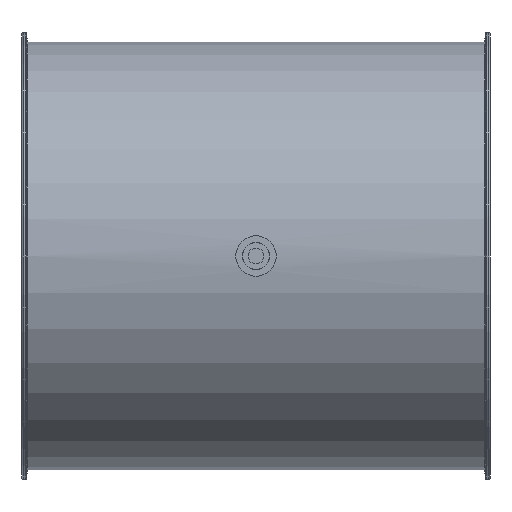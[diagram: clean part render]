
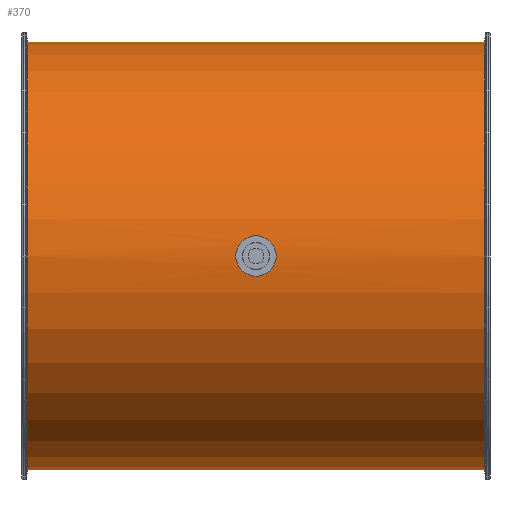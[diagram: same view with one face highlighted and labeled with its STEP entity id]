
A CAD part, front view. The second image highlights one B-rep face of the part: STEP entity #370.
In plain terms, the highlighted cylindrical face has radius 201 mm (diameter 402 mm), a full revolution.
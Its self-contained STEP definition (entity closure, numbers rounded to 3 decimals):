
#199=B_SPLINE_CURVE_WITH_KNOTS('',3,(#1694,#1695,#1696,#1697,#1698,#1699,
#1700,#1701,#1702,#1703,#1704,#1705,#1706,#1707,#1708,#1709,#1710,#1711),
 .UNSPECIFIED.,.T.,.F.,(2,2,2,2,2,2,2,2,2,2,2),(-0.125,0.,0.125,
0.25,0.375,0.5,0.625,
0.75,0.875,1.,1.125),.UNSPECIFIED.);
#200=B_SPLINE_CURVE_WITH_KNOTS('',3,(#1713,#1714,#1715,#1716,#1717,#1718,
#1719,#1720,#1721,#1722,#1723,#1724,#1725,#1726,#1727,#1728,#1729,#1730),
 .UNSPECIFIED.,.T.,.F.,(2,2,2,2,2,2,2,2,2,2,2),(-0.125,0.,0.125,
0.25,0.375,0.5,0.625,0.75,0.875,
1.,1.125),.UNSPECIFIED.);
#222=CYLINDRICAL_SURFACE('',#1193,201.);
#263=FACE_BOUND('',#519,.T.);
#264=FACE_BOUND('',#520,.T.);
#265=FACE_BOUND('',#521,.T.);
#266=FACE_BOUND('',#522,.T.);
#370=ADVANCED_FACE('',(#263,#264,#265,#266),#222,.T.);
#519=EDGE_LOOP('',(#659));
#520=EDGE_LOOP('',(#660));
#521=EDGE_LOOP('',(#661));
#522=EDGE_LOOP('',(#662));
#659=ORIENTED_EDGE('',*,*,#991,.T.);
#660=ORIENTED_EDGE('',*,*,#992,.F.);
#661=ORIENTED_EDGE('',*,*,#993,.F.);
#662=ORIENTED_EDGE('',*,*,#994,.T.);
#897=VERTEX_POINT('',#1693);
#898=VERTEX_POINT('',#1712);
#899=VERTEX_POINT('',#1731);
#900=VERTEX_POINT('',#1733);
#991=EDGE_CURVE('',#897,#897,#1113,.T.);
#992=EDGE_CURVE('',#898,#898,#199,.T.);
#993=EDGE_CURVE('',#899,#899,#200,.T.);
#994=EDGE_CURVE('',#900,#900,#1114,.T.);
#1113=CIRCLE('',#1191,201.);
#1114=CIRCLE('',#1192,201.);
#1191=AXIS2_PLACEMENT_3D('',#1692,#1354,#1355);
#1192=AXIS2_PLACEMENT_3D('',#1732,#1356,#1357);
#1193=AXIS2_PLACEMENT_3D('',#1734,#1358,#1359);
#1354=DIRECTION('',(-1.,0.,0.));
#1355=DIRECTION('',(0.,0.,-1.));
#1356=DIRECTION('',(1.,0.,0.));
#1357=DIRECTION('',(0.,0.,1.));
#1358=DIRECTION('',(1.,0.,0.));
#1359=DIRECTION('',(0.,0.,-1.));
#1692=CARTESIAN_POINT('',(214.83,-109.,125.));
#1693=CARTESIAN_POINT('',(214.83,-109.,-76.));
#1694=CARTESIAN_POINT('',(3.436,91.579,112.));
#1695=CARTESIAN_POINT('',(-3.436,91.579,112.));
#1696=CARTESIAN_POINT('',(-6.796,91.68,113.41));
#1697=CARTESIAN_POINT('',(-11.591,91.9,118.207));
#1698=CARTESIAN_POINT('',(-12.998,92.,121.601));
#1699=CARTESIAN_POINT('',(-13.002,92.,128.385));
#1700=CARTESIAN_POINT('',(-11.623,91.901,131.76));
#1701=CARTESIAN_POINT('',(-6.771,91.679,136.616));
#1702=CARTESIAN_POINT('',(-3.399,91.579,137.999));
#1703=CARTESIAN_POINT('',(3.389,91.579,138.001));
#1704=CARTESIAN_POINT('',(6.784,91.68,136.596));
#1705=CARTESIAN_POINT('',(11.583,91.899,131.807));
#1706=CARTESIAN_POINT('',(12.997,92.,128.444));
#1707=CARTESIAN_POINT('',(13.003,92.,121.581));
#1708=CARTESIAN_POINT('',(11.597,91.9,118.216));
#1709=CARTESIAN_POINT('',(6.802,91.68,113.414));
#1710=CARTESIAN_POINT('',(3.436,91.579,112.));
#1711=CARTESIAN_POINT('',(-3.436,91.579,112.));
#1712=CARTESIAN_POINT('',(0.,91.579,112.));
#1713=CARTESIAN_POINT('',(-3.436,-309.579,112.));
#1714=CARTESIAN_POINT('',(3.436,-309.579,112.));
#1715=CARTESIAN_POINT('',(6.796,-309.68,113.41));
#1716=CARTESIAN_POINT('',(11.591,-309.9,118.207));
#1717=CARTESIAN_POINT('',(12.998,-310.,121.601));
#1718=CARTESIAN_POINT('',(13.002,-310.,128.385));
#1719=CARTESIAN_POINT('',(11.623,-309.901,131.76));
#1720=CARTESIAN_POINT('',(6.771,-309.679,136.616));
#1721=CARTESIAN_POINT('',(3.399,-309.579,137.999));
#1722=CARTESIAN_POINT('',(-3.389,-309.579,138.001));
#1723=CARTESIAN_POINT('',(-6.784,-309.68,136.596));
#1724=CARTESIAN_POINT('',(-11.583,-309.899,131.807));
#1725=CARTESIAN_POINT('',(-12.997,-310.,128.444));
#1726=CARTESIAN_POINT('',(-13.003,-310.,121.581));
#1727=CARTESIAN_POINT('',(-11.597,-309.9,118.216));
#1728=CARTESIAN_POINT('',(-6.802,-309.68,113.414));
#1729=CARTESIAN_POINT('',(-3.436,-309.579,112.));
#1730=CARTESIAN_POINT('',(3.436,-309.579,112.));
#1731=CARTESIAN_POINT('',(0.,-309.579,112.));
#1732=CARTESIAN_POINT('',(-214.83,-109.,125.));
#1733=CARTESIAN_POINT('',(-214.83,-109.,326.));
#1734=CARTESIAN_POINT('',(-220.,-109.,125.));
